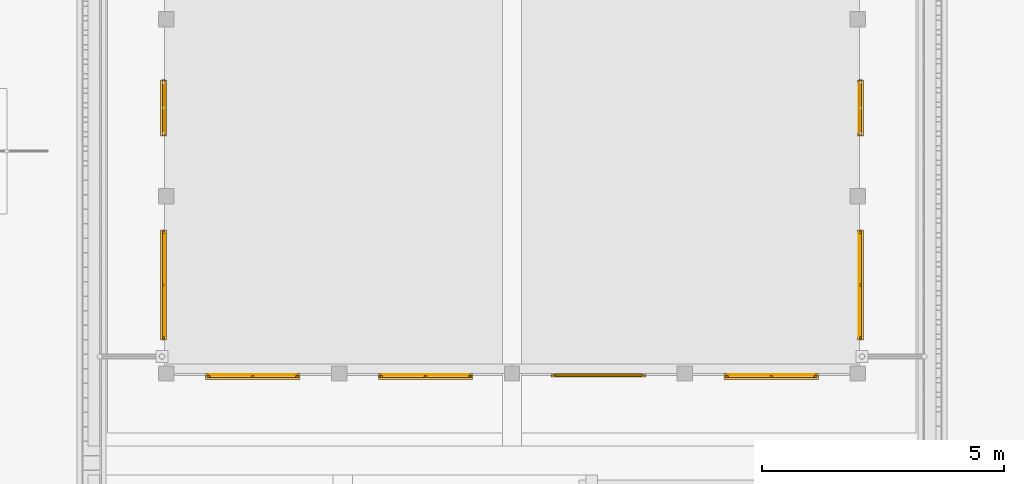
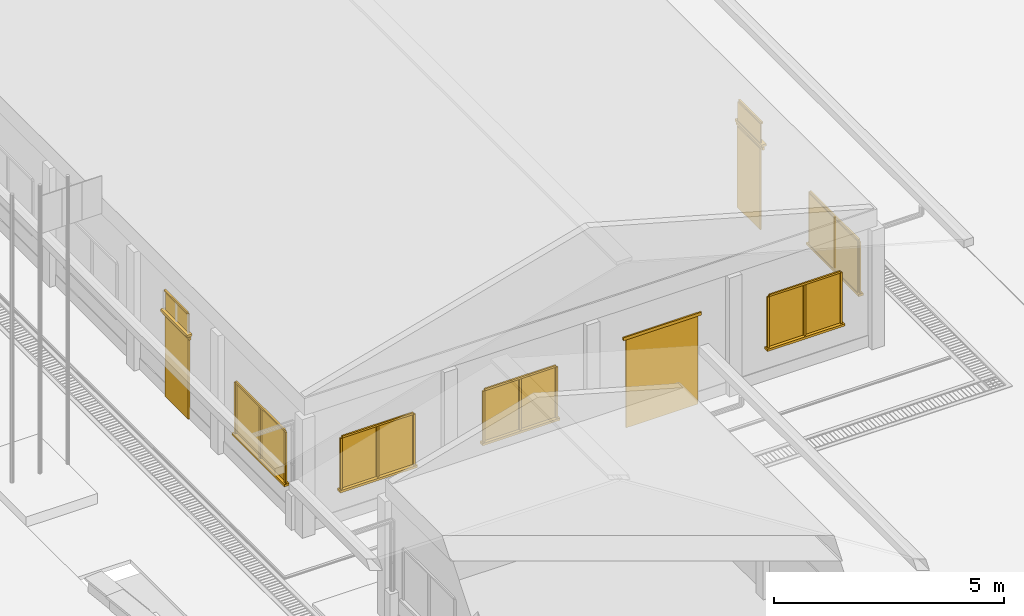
# One storey, part 46 of 151: 36 windows, 6 doors.
"""IFC2X3 building model written with IfcOpenShell, lengths in metres."""

from ifc_helpers import new_model, si_unit, origin, origin_with_axes, place, context, subcontext, project, spatial, faceted_brep, element, save


model = new_model("IFC2X3")

# Units and contexts
model_context = context("Model", 3, precision=1e-05, world=origin_with_axes())
body_context = subcontext(model_context, "Body", "Model", "MODEL_VIEW")
ifc_project = project(units=[si_unit("LENGTHUNIT", "METRE"), si_unit("AREAUNIT", "SQUARE_METRE"), si_unit("VOLUMEUNIT", "CUBIC_METRE"), si_unit("PLANEANGLEUNIT", "RADIAN")], contexts=[model_context])

# Site, building, storey
site_placement = place(None, origin_with_axes())
site = spatial("IfcSite", under=ifc_project, at=site_placement, Name="Predio Los Mangos - Morales, San Martín", CompositionType="ELEMENT")
building_placement = place(site_placement, origin())
building = spatial("IfcBuilding", under=site, at=building_placement, Name="Hogar de Refugio Temporal", CompositionType="ELEMENT")
storey_placement = place(building_placement, origin())
storey = spatial("IfcBuildingStorey", under=building, at=storey_placement, Name="NIVEL 1 (NPT +0.00)", CompositionType="ELEMENT", Elevation=0.0)

# Windows
window_1_placement = place(storey_placement, origin())
element("IfcWindow", 1, at=window_1_placement, inside=storey, Name="E-05_vg0_vid", ObjectType="Ventana", context=body_context, shape_type="Brep", body=[
    faceted_brep([(46.1937, 57.86, 1.05), (46.1937, 57.88, 1.05), (47.9813, 57.88, 1.05), (47.9813, 57.86, 1.05), (46.1937, 57.86, 2.4), (47.9813, 57.86, 2.4), (47.9813, 57.88, 2.4), (46.1937, 57.88, 2.4)], [[[0, 1, 2, 3]], [[4, 5, 6, 7]], [[0, 3, 5, 4]], [[3, 2, 6, 5]], [[2, 1, 7, 6]], [[1, 0, 4, 7]]]),
])
window_2_placement = place(storey_placement, origin())
element("IfcWindow", 2, at=window_2_placement, inside=storey, Name="E-05_vg0_m", ObjectType="Ventana", context=body_context, shape_type="Brep", body=[
    faceted_brep([(46.1437, 57.82, 1.05), (46.1437, 57.86, 1.05), (46.1937, 57.86, 1.05), (46.1937, 57.82, 1.05), (46.1437, 57.82, 2.4), (46.1937, 57.82, 2.4), (46.1937, 57.86, 2.4), (46.1437, 57.86, 2.4)], [[[0, 1, 2, 3]], [[4, 5, 6, 7]], [[0, 3, 5, 4]], [[3, 2, 6, 5]], [[2, 1, 7, 6]], [[1, 0, 4, 7]]]),
])
window_3_placement = place(storey_placement, origin())
element("IfcWindow", 3, at=window_3_placement, inside=storey, Name="E-05_vg0_m", ObjectType="Ventana", context=body_context, shape_type="Brep", body=[
    faceted_brep([(47.9813, 57.82, 1.05), (47.9813, 57.86, 1.05), (48.0312, 57.86, 1.05), (48.0312, 57.82, 1.05), (47.9813, 57.82, 2.4), (48.0312, 57.82, 2.4), (48.0312, 57.86, 2.4), (47.9813, 57.86, 2.4)], [[[0, 1, 2, 3]], [[4, 5, 6, 7]], [[0, 3, 5, 4]], [[3, 2, 6, 5]], [[2, 1, 7, 6]], [[1, 0, 4, 7]]]),
])
window_4_placement = place(storey_placement, origin())
element("IfcWindow", 4, at=window_4_placement, inside=storey, Name="E-05_vg0_m", ObjectType="Ventana", context=body_context, shape_type="Brep", body=[
    faceted_brep([(46.1937, 57.82, 2.4), (46.1937, 57.86, 2.4), (47.9813, 57.86, 2.4), (47.9813, 57.82, 2.4), (46.1937, 57.82, 2.45), (47.9813, 57.82, 2.45), (47.9813, 57.86, 2.45), (46.1937, 57.86, 2.45)], [[[0, 1, 2, 3]], [[4, 5, 6, 7]], [[0, 3, 5, 4]], [[3, 2, 6, 5]], [[2, 1, 7, 6]], [[1, 0, 4, 7]]]),
])
window_5_placement = place(storey_placement, origin())
element("IfcWindow", 5, at=window_5_placement, inside=storey, Name="E-05_vg0_m", ObjectType="Ventana", context=body_context, shape_type="Brep", body=[
    faceted_brep([(47.0625, 57.82, 1.05), (47.0625, 57.86, 1.05), (47.1125, 57.86, 1.05), (47.1125, 57.82, 1.05), (47.0625, 57.82, 2.4), (47.1125, 57.82, 2.4), (47.1125, 57.86, 2.4), (47.0625, 57.86, 2.4)], [[[0, 1, 2, 3]], [[4, 5, 6, 7]], [[0, 3, 5, 4]], [[3, 2, 6, 5]], [[2, 1, 7, 6]], [[1, 0, 4, 7]]]),
])
window_6_placement = place(storey_placement, origin())
element("IfcWindow", 6, at=window_6_placement, inside=storey, Name="E-05_vg0_alf", ObjectType="Ventana", context=body_context, shape_type="Brep", body=[
    faceted_brep([(46.1138, 57.9, 0.99), (46.1138, 57.78, 0.99), (48.0612, 57.78, 0.99), (48.0612, 57.9, 0.99), (46.1138, 57.9, 1.05), (48.0612, 57.9, 1.05), (48.0612, 57.78, 1.05), (46.1138, 57.78, 1.05)], [[[0, 1, 2, 3]], [[4, 5, 6, 7]], [[0, 3, 5, 4]], [[3, 2, 6, 5]], [[2, 1, 7, 6]], [[1, 0, 4, 7]]]),
])
window_7_placement = place(storey_placement, origin())
element("IfcWindow", 7, at=window_7_placement, inside=storey, Name="E-05_vg1_vid", ObjectType="Ventana", context=body_context, shape_type="Brep", body=[
    faceted_brep([(49.7687, 57.86, 1.05), (49.7687, 57.88, 1.05), (51.5563, 57.88, 1.05), (51.5563, 57.86, 1.05), (49.7687, 57.86, 2.4), (51.5563, 57.86, 2.4), (51.5563, 57.88, 2.4), (49.7687, 57.88, 2.4)], [[[0, 1, 2, 3]], [[4, 5, 6, 7]], [[0, 3, 5, 4]], [[3, 2, 6, 5]], [[2, 1, 7, 6]], [[1, 0, 4, 7]]]),
])
window_8_placement = place(storey_placement, origin())
element("IfcWindow", 8, at=window_8_placement, inside=storey, Name="E-05_vg1_m", ObjectType="Ventana", context=body_context, shape_type="Brep", body=[
    faceted_brep([(49.7188, 57.82, 1.05), (49.7188, 57.86, 1.05), (49.7687, 57.86, 1.05), (49.7687, 57.82, 1.05), (49.7188, 57.82, 2.4), (49.7687, 57.82, 2.4), (49.7687, 57.86, 2.4), (49.7188, 57.86, 2.4)], [[[0, 1, 2, 3]], [[4, 5, 6, 7]], [[0, 3, 5, 4]], [[3, 2, 6, 5]], [[2, 1, 7, 6]], [[1, 0, 4, 7]]]),
])
window_9_placement = place(storey_placement, origin())
element("IfcWindow", 9, at=window_9_placement, inside=storey, Name="E-05_vg1_m", ObjectType="Ventana", context=body_context, shape_type="Brep", body=[
    faceted_brep([(51.5563, 57.82, 1.05), (51.5563, 57.86, 1.05), (51.6063, 57.86, 1.05), (51.6063, 57.82, 1.05), (51.5563, 57.82, 2.4), (51.6063, 57.82, 2.4), (51.6063, 57.86, 2.4), (51.5563, 57.86, 2.4)], [[[0, 1, 2, 3]], [[4, 5, 6, 7]], [[0, 3, 5, 4]], [[3, 2, 6, 5]], [[2, 1, 7, 6]], [[1, 0, 4, 7]]]),
])
window_10_placement = place(storey_placement, origin())
element("IfcWindow", 10, at=window_10_placement, inside=storey, Name="E-05_vg1_m", ObjectType="Ventana", context=body_context, shape_type="Brep", body=[
    faceted_brep([(49.7687, 57.82, 2.4), (49.7687, 57.86, 2.4), (51.5563, 57.86, 2.4), (51.5563, 57.82, 2.4), (49.7687, 57.82, 2.45), (51.5563, 57.82, 2.45), (51.5563, 57.86, 2.45), (49.7687, 57.86, 2.45)], [[[0, 1, 2, 3]], [[4, 5, 6, 7]], [[0, 3, 5, 4]], [[3, 2, 6, 5]], [[2, 1, 7, 6]], [[1, 0, 4, 7]]]),
])
window_11_placement = place(storey_placement, origin())
element("IfcWindow", 11, at=window_11_placement, inside=storey, Name="E-05_vg1_m", ObjectType="Ventana", context=body_context, shape_type="Brep", body=[
    faceted_brep([(50.6375, 57.82, 1.05), (50.6375, 57.86, 1.05), (50.6875, 57.86, 1.05), (50.6875, 57.82, 1.05), (50.6375, 57.82, 2.4), (50.6875, 57.82, 2.4), (50.6875, 57.86, 2.4), (50.6375, 57.86, 2.4)], [[[0, 1, 2, 3]], [[4, 5, 6, 7]], [[0, 3, 5, 4]], [[3, 2, 6, 5]], [[2, 1, 7, 6]], [[1, 0, 4, 7]]]),
])
window_12_placement = place(storey_placement, origin())
element("IfcWindow", 12, at=window_12_placement, inside=storey, Name="E-05_vg1_alf", ObjectType="Ventana", context=body_context, shape_type="Brep", body=[
    faceted_brep([(49.6888, 57.9, 0.99), (49.6888, 57.78, 0.99), (51.6362, 57.78, 0.99), (51.6362, 57.9, 0.99), (49.6888, 57.9, 1.05), (51.6362, 57.9, 1.05), (51.6362, 57.78, 1.05), (49.6888, 57.78, 1.05)], [[[0, 1, 2, 3]], [[4, 5, 6, 7]], [[0, 3, 5, 4]], [[3, 2, 6, 5]], [[2, 1, 7, 6]], [[1, 0, 4, 7]]]),
])

# Doors
door_1_placement = place(storey_placement, origin())
element("IfcDoor", 13, at=door_1_placement, inside=storey, Name="E-05_pp", ObjectType="Puerta", context=body_context, shape_type="Brep", body=[
    faceted_brep([(53.3375, 57.85, 0.15), (53.3375, 57.89, 0.15), (55.1375, 57.89, 0.15), (55.1375, 57.85, 0.15), (53.3375, 57.85, 2.5), (55.1375, 57.85, 2.5), (55.1375, 57.89, 2.5), (53.3375, 57.89, 2.5)], [[[0, 1, 2, 3]], [[4, 5, 6, 7]], [[0, 3, 5, 4]], [[3, 2, 6, 5]], [[2, 1, 7, 6]], [[1, 0, 4, 7]]]),
])
door_2_placement = place(storey_placement, origin())
element("IfcDoor", 14, at=door_2_placement, inside=storey, Name="E-05_pp_marco", ObjectType="Puerta", context=body_context, shape_type="Brep", body=[
    faceted_brep([(53.2575, 57.83, 2.5), (53.2575, 57.87, 2.5), (55.2175, 57.87, 2.5), (55.2175, 57.83, 2.5), (53.2575, 57.83, 2.58), (55.2175, 57.83, 2.58), (55.2175, 57.87, 2.58), (53.2575, 57.87, 2.58)], [[[0, 1, 2, 3]], [[4, 5, 6, 7]], [[0, 3, 5, 4]], [[3, 2, 6, 5]], [[2, 1, 7, 6]], [[1, 0, 4, 7]]]),
])

# Windows
window_13_placement = place(storey_placement, origin())
element("IfcWindow", 15, at=window_13_placement, inside=storey, Name="E-05_vg3_vid", ObjectType="Ventana", context=body_context, shape_type="Brep", body=[
    faceted_brep([(56.9188, 57.86, 1.05), (56.9188, 57.88, 1.05), (58.7062, 57.88, 1.05), (58.7062, 57.86, 1.05), (56.9188, 57.86, 2.4), (58.7062, 57.86, 2.4), (58.7062, 57.88, 2.4), (56.9188, 57.88, 2.4)], [[[0, 1, 2, 3]], [[4, 5, 6, 7]], [[0, 3, 5, 4]], [[3, 2, 6, 5]], [[2, 1, 7, 6]], [[1, 0, 4, 7]]]),
])
window_14_placement = place(storey_placement, origin())
element("IfcWindow", 16, at=window_14_placement, inside=storey, Name="E-05_vg3_m", ObjectType="Ventana", context=body_context, shape_type="Brep", body=[
    faceted_brep([(56.8688, 57.82, 1.05), (56.8688, 57.86, 1.05), (56.9188, 57.86, 1.05), (56.9188, 57.82, 1.05), (56.8688, 57.82, 2.4), (56.9188, 57.82, 2.4), (56.9188, 57.86, 2.4), (56.8688, 57.86, 2.4)], [[[0, 1, 2, 3]], [[4, 5, 6, 7]], [[0, 3, 5, 4]], [[3, 2, 6, 5]], [[2, 1, 7, 6]], [[1, 0, 4, 7]]]),
])
window_15_placement = place(storey_placement, origin())
element("IfcWindow", 17, at=window_15_placement, inside=storey, Name="E-05_vg3_m", ObjectType="Ventana", context=body_context, shape_type="Brep", body=[
    faceted_brep([(58.7062, 57.82, 1.05), (58.7062, 57.86, 1.05), (58.7562, 57.86, 1.05), (58.7562, 57.82, 1.05), (58.7062, 57.82, 2.4), (58.7562, 57.82, 2.4), (58.7562, 57.86, 2.4), (58.7062, 57.86, 2.4)], [[[0, 1, 2, 3]], [[4, 5, 6, 7]], [[0, 3, 5, 4]], [[3, 2, 6, 5]], [[2, 1, 7, 6]], [[1, 0, 4, 7]]]),
])
window_16_placement = place(storey_placement, origin())
element("IfcWindow", 18, at=window_16_placement, inside=storey, Name="E-05_vg3_m", ObjectType="Ventana", context=body_context, shape_type="Brep", body=[
    faceted_brep([(56.9188, 57.82, 2.4), (56.9188, 57.86, 2.4), (58.7062, 57.86, 2.4), (58.7062, 57.82, 2.4), (56.9188, 57.82, 2.45), (58.7062, 57.82, 2.45), (58.7062, 57.86, 2.45), (56.9188, 57.86, 2.45)], [[[0, 1, 2, 3]], [[4, 5, 6, 7]], [[0, 3, 5, 4]], [[3, 2, 6, 5]], [[2, 1, 7, 6]], [[1, 0, 4, 7]]]),
])
window_17_placement = place(storey_placement, origin())
element("IfcWindow", 19, at=window_17_placement, inside=storey, Name="E-05_vg3_m", ObjectType="Ventana", context=body_context, shape_type="Brep", body=[
    faceted_brep([(57.7875, 57.82, 1.05), (57.7875, 57.86, 1.05), (57.8375, 57.86, 1.05), (57.8375, 57.82, 1.05), (57.7875, 57.82, 2.4), (57.8375, 57.82, 2.4), (57.8375, 57.86, 2.4), (57.7875, 57.86, 2.4)], [[[0, 1, 2, 3]], [[4, 5, 6, 7]], [[0, 3, 5, 4]], [[3, 2, 6, 5]], [[2, 1, 7, 6]], [[1, 0, 4, 7]]]),
])
window_18_placement = place(storey_placement, origin())
element("IfcWindow", 20, at=window_18_placement, inside=storey, Name="E-05_vg3_alf", ObjectType="Ventana", context=body_context, shape_type="Brep", body=[
    faceted_brep([(56.8387, 57.9, 0.99), (56.8387, 57.78, 0.99), (58.7863, 57.78, 0.99), (58.7863, 57.9, 0.99), (56.8387, 57.9, 1.05), (58.7863, 57.9, 1.05), (58.7863, 57.78, 1.05), (56.8387, 57.78, 1.05)], [[[0, 1, 2, 3]], [[4, 5, 6, 7]], [[0, 3, 5, 4]], [[3, 2, 6, 5]], [[2, 1, 7, 6]], [[1, 0, 4, 7]]]),
])
window_19_placement = place(storey_placement, origin())
element("IfcWindow", 21, at=window_19_placement, inside=storey, Name="E-05_v0_vid", ObjectType="Ventana", context=body_context, shape_type="Brep", body=[
    faceted_brep([(45.26, 58.6691, 1.05), (45.26, 60.7934, 1.05), (45.28, 60.7934, 1.05), (45.28, 58.6691, 1.05), (45.26, 58.6691, 2.4), (45.28, 58.6691, 2.4), (45.28, 60.7934, 2.4), (45.26, 60.7934, 2.4)], [[[0, 1, 2, 3]], [[4, 5, 6, 7]], [[0, 3, 5, 4]], [[3, 2, 6, 5]], [[2, 1, 7, 6]], [[1, 0, 4, 7]]]),
])
window_20_placement = place(storey_placement, origin())
element("IfcWindow", 22, at=window_20_placement, inside=storey, Name="E-05_v0_m", ObjectType="Ventana", context=body_context, shape_type="Brep", body=[
    faceted_brep([(45.22, 58.6191, 1.05), (45.22, 58.6691, 1.05), (45.26, 58.6691, 1.05), (45.26, 58.6191, 1.05), (45.22, 58.6191, 2.4), (45.26, 58.6191, 2.4), (45.26, 58.6691, 2.4), (45.22, 58.6691, 2.4)], [[[0, 1, 2, 3]], [[4, 5, 6, 7]], [[0, 3, 5, 4]], [[3, 2, 6, 5]], [[2, 1, 7, 6]], [[1, 0, 4, 7]]]),
])
window_21_placement = place(storey_placement, origin())
element("IfcWindow", 23, at=window_21_placement, inside=storey, Name="E-05_v0_m", ObjectType="Ventana", context=body_context, shape_type="Brep", body=[
    faceted_brep([(45.22, 60.7934, 1.05), (45.22, 60.8434, 1.05), (45.26, 60.8434, 1.05), (45.26, 60.7934, 1.05), (45.22, 60.7934, 2.4), (45.26, 60.7934, 2.4), (45.26, 60.8434, 2.4), (45.22, 60.8434, 2.4)], [[[0, 1, 2, 3]], [[4, 5, 6, 7]], [[0, 3, 5, 4]], [[3, 2, 6, 5]], [[2, 1, 7, 6]], [[1, 0, 4, 7]]]),
])
window_22_placement = place(storey_placement, origin())
element("IfcWindow", 24, at=window_22_placement, inside=storey, Name="E-05_v0_m", ObjectType="Ventana", context=body_context, shape_type="Brep", body=[
    faceted_brep([(45.22, 58.6691, 2.4), (45.22, 60.7934, 2.4), (45.26, 60.7934, 2.4), (45.26, 58.6691, 2.4), (45.22, 58.6691, 2.45), (45.26, 58.6691, 2.45), (45.26, 60.7934, 2.45), (45.22, 60.7934, 2.45)], [[[0, 1, 2, 3]], [[4, 5, 6, 7]], [[0, 3, 5, 4]], [[3, 2, 6, 5]], [[2, 1, 7, 6]], [[1, 0, 4, 7]]]),
])
window_23_placement = place(storey_placement, origin())
element("IfcWindow", 25, at=window_23_placement, inside=storey, Name="E-05_v0_m", ObjectType="Ventana", context=body_context, shape_type="Brep", body=[
    faceted_brep([(45.22, 59.7062, 1.05), (45.22, 59.7562, 1.05), (45.26, 59.7562, 1.05), (45.26, 59.7062, 1.05), (45.22, 59.7062, 2.4), (45.26, 59.7062, 2.4), (45.26, 59.7562, 2.4), (45.22, 59.7562, 2.4)], [[[0, 1, 2, 3]], [[4, 5, 6, 7]], [[0, 3, 5, 4]], [[3, 2, 6, 5]], [[2, 1, 7, 6]], [[1, 0, 4, 7]]]),
])
window_24_placement = place(storey_placement, origin())
element("IfcWindow", 26, at=window_24_placement, inside=storey, Name="E-05_v0_alf", ObjectType="Ventana", context=body_context, shape_type="Brep", body=[
    faceted_brep([(45.3, 58.5891, 0.99), (45.3, 60.8734, 0.99), (45.18, 60.8734, 0.99), (45.18, 58.5891, 0.99), (45.3, 58.5891, 1.05), (45.18, 58.5891, 1.05), (45.18, 60.8734, 1.05), (45.3, 60.8734, 1.05)], [[[0, 1, 2, 3]], [[4, 5, 6, 7]], [[0, 3, 5, 4]], [[3, 2, 6, 5]], [[2, 1, 7, 6]], [[1, 0, 4, 7]]]),
])

# Doors
door_3_placement = place(storey_placement, origin())
element("IfcDoor", 27, at=door_3_placement, inside=storey, Name="E-05_p1", ObjectType="Puerta", context=body_context, shape_type="Brep", body=[
    faceted_brep([(45.25, 62.8937, 0.15), (45.25, 63.8937, 0.15), (45.29, 63.8937, 0.15), (45.29, 62.8937, 0.15), (45.25, 62.8937, 2.3), (45.29, 62.8937, 2.3), (45.29, 63.8937, 2.3), (45.25, 63.8937, 2.3)], [[[0, 1, 2, 3]], [[4, 5, 6, 7]], [[0, 3, 5, 4]], [[3, 2, 6, 5]], [[2, 1, 7, 6]], [[1, 0, 4, 7]]]),
])
door_4_placement = place(storey_placement, origin())
element("IfcDoor", 28, at=door_4_placement, inside=storey, Name="E-05_p1_marco", ObjectType="Puerta", context=body_context, shape_type="Brep", body=[
    faceted_brep([(45.23, 62.8138, 2.3), (45.23, 63.9738, 2.3), (45.27, 63.9738, 2.3), (45.27, 62.8138, 2.3), (45.23, 62.8138, 2.38), (45.27, 62.8138, 2.38), (45.27, 63.9738, 2.38), (45.23, 63.9738, 2.38)], [[[0, 1, 2, 3]], [[4, 5, 6, 7]], [[0, 3, 5, 4]], [[3, 2, 6, 5]], [[2, 1, 7, 6]], [[1, 0, 4, 7]]]),
])

# Windows
window_25_placement = place(storey_placement, origin())
element("IfcWindow", 29, at=window_25_placement, inside=storey, Name="E-05_vt1_vid", ObjectType="Ventana", context=body_context, shape_type="Brep", body=[
    faceted_brep([(45.26, 62.8937, 2.45), (45.26, 63.8937, 2.45), (45.28, 63.8937, 2.45), (45.28, 62.8937, 2.45), (45.26, 62.8937, 2.95), (45.28, 62.8937, 2.95), (45.28, 63.8937, 2.95), (45.26, 63.8937, 2.95)], [[[0, 1, 2, 3]], [[4, 5, 6, 7]], [[0, 3, 5, 4]], [[3, 2, 6, 5]], [[2, 1, 7, 6]], [[1, 0, 4, 7]]]),
])
window_26_placement = place(storey_placement, origin())
element("IfcWindow", 30, at=window_26_placement, inside=storey, Name="E-05_vt1_m", ObjectType="Ventana", context=body_context, shape_type="Brep", body=[
    faceted_brep([(45.22, 62.8937, 2.95), (45.22, 63.8937, 2.95), (45.26, 63.8937, 2.95), (45.26, 62.8937, 2.95), (45.22, 62.8937, 3.0), (45.26, 62.8937, 3.0), (45.26, 63.8937, 3.0), (45.22, 63.8937, 3.0)], [[[0, 1, 2, 3]], [[4, 5, 6, 7]], [[0, 3, 5, 4]], [[3, 2, 6, 5]], [[2, 1, 7, 6]], [[1, 0, 4, 7]]]),
])
window_27_placement = place(storey_placement, origin())
element("IfcWindow", 31, at=window_27_placement, inside=storey, Name="E-05_vt1_alf", ObjectType="Ventana", context=body_context, shape_type="Brep", body=[
    faceted_brep([(45.3, 62.8138, 2.39), (45.3, 63.9738, 2.39), (45.18, 63.9738, 2.39), (45.18, 62.8138, 2.39), (45.3, 62.8138, 2.45), (45.18, 62.8138, 2.45), (45.18, 63.9738, 2.45), (45.3, 63.9738, 2.45)], [[[0, 1, 2, 3]], [[4, 5, 6, 7]], [[0, 3, 5, 4]], [[3, 2, 6, 5]], [[2, 1, 7, 6]], [[1, 0, 4, 7]]]),
])
window_28_placement = place(storey_placement, origin())
element("IfcWindow", 32, at=window_28_placement, inside=storey, Name="E-05_v0_vid", ObjectType="Ventana", context=body_context, shape_type="Brep", body=[
    faceted_brep([(59.62, 58.6691, 1.05), (59.62, 60.7934, 1.05), (59.64, 60.7934, 1.05), (59.64, 58.6691, 1.05), (59.62, 58.6691, 2.4), (59.64, 58.6691, 2.4), (59.64, 60.7934, 2.4), (59.62, 60.7934, 2.4)], [[[0, 1, 2, 3]], [[4, 5, 6, 7]], [[0, 3, 5, 4]], [[3, 2, 6, 5]], [[2, 1, 7, 6]], [[1, 0, 4, 7]]]),
])
window_29_placement = place(storey_placement, origin())
element("IfcWindow", 33, at=window_29_placement, inside=storey, Name="E-05_v0_m", ObjectType="Ventana", context=body_context, shape_type="Brep", body=[
    faceted_brep([(59.64, 58.6191, 1.05), (59.64, 58.6691, 1.05), (59.68, 58.6691, 1.05), (59.68, 58.6191, 1.05), (59.64, 58.6191, 2.4), (59.68, 58.6191, 2.4), (59.68, 58.6691, 2.4), (59.64, 58.6691, 2.4)], [[[0, 1, 2, 3]], [[4, 5, 6, 7]], [[0, 3, 5, 4]], [[3, 2, 6, 5]], [[2, 1, 7, 6]], [[1, 0, 4, 7]]]),
])
window_30_placement = place(storey_placement, origin())
element("IfcWindow", 34, at=window_30_placement, inside=storey, Name="E-05_v0_m", ObjectType="Ventana", context=body_context, shape_type="Brep", body=[
    faceted_brep([(59.64, 60.7934, 1.05), (59.64, 60.8434, 1.05), (59.68, 60.8434, 1.05), (59.68, 60.7934, 1.05), (59.64, 60.7934, 2.4), (59.68, 60.7934, 2.4), (59.68, 60.8434, 2.4), (59.64, 60.8434, 2.4)], [[[0, 1, 2, 3]], [[4, 5, 6, 7]], [[0, 3, 5, 4]], [[3, 2, 6, 5]], [[2, 1, 7, 6]], [[1, 0, 4, 7]]]),
])
window_31_placement = place(storey_placement, origin())
element("IfcWindow", 35, at=window_31_placement, inside=storey, Name="E-05_v0_m", ObjectType="Ventana", context=body_context, shape_type="Brep", body=[
    faceted_brep([(59.64, 58.6691, 2.4), (59.64, 60.7934, 2.4), (59.68, 60.7934, 2.4), (59.68, 58.6691, 2.4), (59.64, 58.6691, 2.45), (59.68, 58.6691, 2.45), (59.68, 60.7934, 2.45), (59.64, 60.7934, 2.45)], [[[0, 1, 2, 3]], [[4, 5, 6, 7]], [[0, 3, 5, 4]], [[3, 2, 6, 5]], [[2, 1, 7, 6]], [[1, 0, 4, 7]]]),
])
window_32_placement = place(storey_placement, origin())
element("IfcWindow", 36, at=window_32_placement, inside=storey, Name="E-05_v0_m", ObjectType="Ventana", context=body_context, shape_type="Brep", body=[
    faceted_brep([(59.64, 59.7062, 1.05), (59.64, 59.7562, 1.05), (59.68, 59.7562, 1.05), (59.68, 59.7062, 1.05), (59.64, 59.7062, 2.4), (59.68, 59.7062, 2.4), (59.68, 59.7562, 2.4), (59.64, 59.7562, 2.4)], [[[0, 1, 2, 3]], [[4, 5, 6, 7]], [[0, 3, 5, 4]], [[3, 2, 6, 5]], [[2, 1, 7, 6]], [[1, 0, 4, 7]]]),
])
window_33_placement = place(storey_placement, origin())
element("IfcWindow", 37, at=window_33_placement, inside=storey, Name="E-05_v0_alf", ObjectType="Ventana", context=body_context, shape_type="Brep", body=[
    faceted_brep([(59.6, 58.5891, 0.99), (59.6, 60.8734, 0.99), (59.72, 60.8734, 0.99), (59.72, 58.5891, 0.99), (59.6, 58.5891, 1.05), (59.72, 58.5891, 1.05), (59.72, 60.8734, 1.05), (59.6, 60.8734, 1.05)], [[[0, 1, 2, 3]], [[4, 5, 6, 7]], [[0, 3, 5, 4]], [[3, 2, 6, 5]], [[2, 1, 7, 6]], [[1, 0, 4, 7]]]),
])

# Doors
door_5_placement = place(storey_placement, origin())
element("IfcDoor", 38, at=door_5_placement, inside=storey, Name="E-05_p1", ObjectType="Puerta", context=body_context, shape_type="Brep", body=[
    faceted_brep([(59.61, 62.8937, 0.15), (59.61, 63.8937, 0.15), (59.65, 63.8937, 0.15), (59.65, 62.8937, 0.15), (59.61, 62.8937, 2.3), (59.65, 62.8937, 2.3), (59.65, 63.8937, 2.3), (59.61, 63.8937, 2.3)], [[[0, 1, 2, 3]], [[4, 5, 6, 7]], [[0, 3, 5, 4]], [[3, 2, 6, 5]], [[2, 1, 7, 6]], [[1, 0, 4, 7]]]),
])
door_6_placement = place(storey_placement, origin())
element("IfcDoor", 39, at=door_6_placement, inside=storey, Name="E-05_p1_marco", ObjectType="Puerta", context=body_context, shape_type="Brep", body=[
    faceted_brep([(59.63, 62.8138, 2.3), (59.63, 63.9738, 2.3), (59.67, 63.9738, 2.3), (59.67, 62.8138, 2.3), (59.63, 62.8138, 2.38), (59.67, 62.8138, 2.38), (59.67, 63.9738, 2.38), (59.63, 63.9738, 2.38)], [[[0, 1, 2, 3]], [[4, 5, 6, 7]], [[0, 3, 5, 4]], [[3, 2, 6, 5]], [[2, 1, 7, 6]], [[1, 0, 4, 7]]]),
])

# Windows
window_34_placement = place(storey_placement, origin())
element("IfcWindow", 40, at=window_34_placement, inside=storey, Name="E-05_vt1_vid", ObjectType="Ventana", context=body_context, shape_type="Brep", body=[
    faceted_brep([(59.62, 62.8937, 2.45), (59.62, 63.8937, 2.45), (59.64, 63.8937, 2.45), (59.64, 62.8937, 2.45), (59.62, 62.8937, 2.95), (59.64, 62.8937, 2.95), (59.64, 63.8937, 2.95), (59.62, 63.8937, 2.95)], [[[0, 1, 2, 3]], [[4, 5, 6, 7]], [[0, 3, 5, 4]], [[3, 2, 6, 5]], [[2, 1, 7, 6]], [[1, 0, 4, 7]]]),
])
window_35_placement = place(storey_placement, origin())
element("IfcWindow", 41, at=window_35_placement, inside=storey, Name="E-05_vt1_m", ObjectType="Ventana", context=body_context, shape_type="Brep", body=[
    faceted_brep([(59.64, 62.8937, 2.95), (59.64, 63.8937, 2.95), (59.68, 63.8937, 2.95), (59.68, 62.8937, 2.95), (59.64, 62.8937, 3.0), (59.68, 62.8937, 3.0), (59.68, 63.8937, 3.0), (59.64, 63.8937, 3.0)], [[[0, 1, 2, 3]], [[4, 5, 6, 7]], [[0, 3, 5, 4]], [[3, 2, 6, 5]], [[2, 1, 7, 6]], [[1, 0, 4, 7]]]),
])
window_36_placement = place(storey_placement, origin())
element("IfcWindow", 42, at=window_36_placement, inside=storey, Name="E-05_vt1_alf", ObjectType="Ventana", context=body_context, shape_type="Brep", body=[
    faceted_brep([(59.6, 62.8138, 2.39), (59.6, 63.9738, 2.39), (59.72, 63.9738, 2.39), (59.72, 62.8138, 2.39), (59.6, 62.8138, 2.45), (59.72, 62.8138, 2.45), (59.72, 63.9738, 2.45), (59.6, 63.9738, 2.45)], [[[0, 1, 2, 3]], [[4, 5, 6, 7]], [[0, 3, 5, 4]], [[3, 2, 6, 5]], [[2, 1, 7, 6]], [[1, 0, 4, 7]]]),
])

save(model, "model.ifc")
